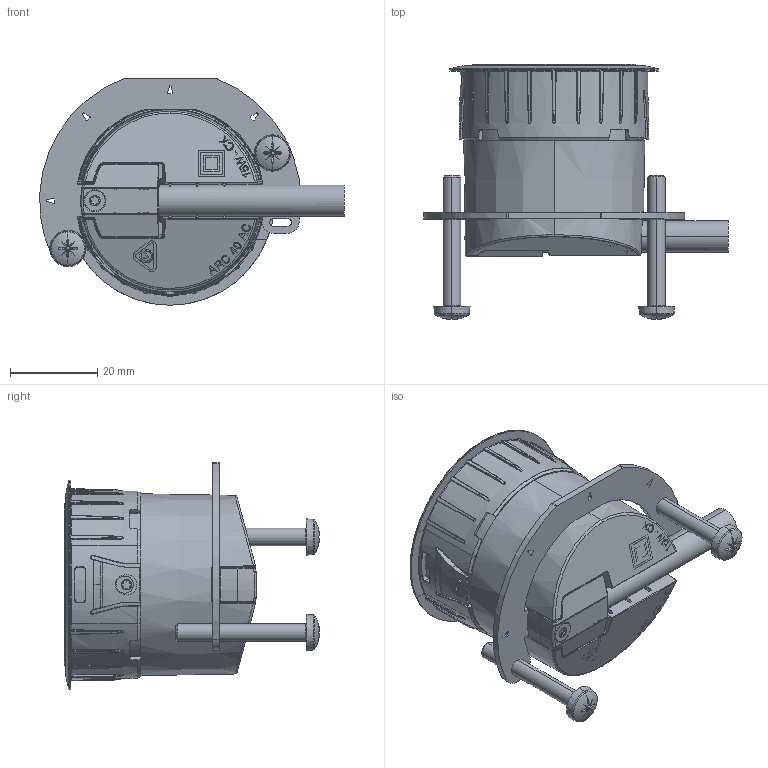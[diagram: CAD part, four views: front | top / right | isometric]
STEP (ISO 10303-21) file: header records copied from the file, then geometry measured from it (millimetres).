
FILE_DESCRIPTION (( 'STEP AP203' ), '1' );
FILE_NAME ('ARC_Wireless_AC_Block.STEP', '2025-01-28T16:30:17', ( '' ), ( '' ), 'SwSTEP 2.0', 'SolidWorks 2024', '' );
FILE_SCHEMA (( 'CONFIG_CONTROL_DESIGN' ));
Length unit declared in the file: millimetre
Products named in the file (1): ARC_Wireless_AC_Block
Bounding box: 69.91 x 58.56 x 52 mm (x, y, z)
Volume: 61431.6 mm3; surface area: 13921.5 mm2
Topology: 3 solids, 29 shells, 1537 faces, 3970 edges, 2485 vertices
Faces by surface type: bspline 501, plane 431, cylinder 307, torus 147, cone 112, sphere 39
Entity records: 61804 total; most frequent: CARTESIAN_POINT 28433, ORIENTED_EDGE 7886, DIRECTION 5808, EDGE_CURVE 3943, VERTEX_POINT 2470, AXIS2_PLACEMENT_3D 2254, EDGE_LOOP 1591, FACE_OUTER_BOUND 1537
